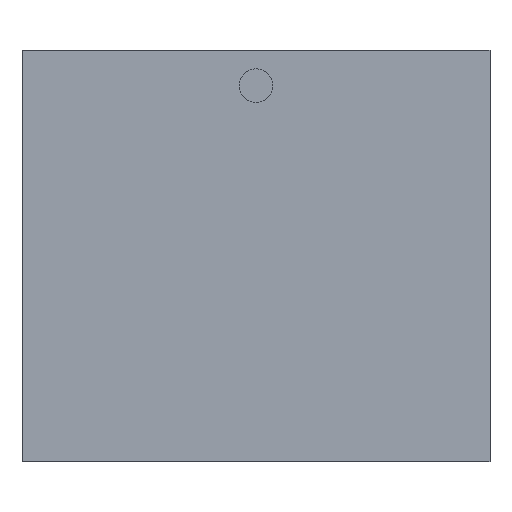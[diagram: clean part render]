
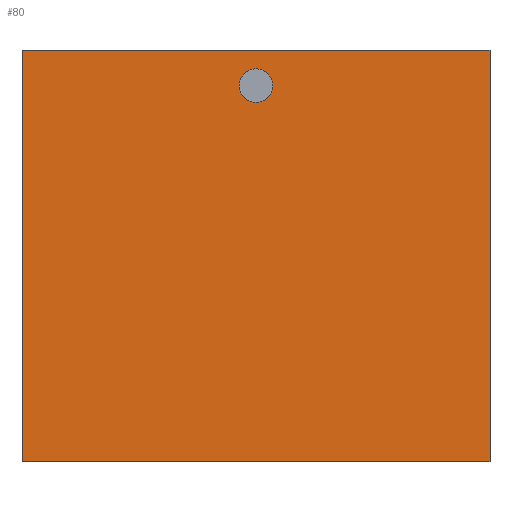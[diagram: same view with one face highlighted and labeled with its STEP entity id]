
A CAD part, front view. The second image highlights one B-rep face of the part: STEP entity #80.
In plain terms, the highlighted planar face has unit normal (0, -1, 0).
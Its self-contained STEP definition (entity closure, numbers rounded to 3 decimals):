
#28 = EDGE_LOOP ( 'NONE', ( #495, #719, #732, #230 ) ) ;
#53 = EDGE_CURVE ( 'NONE', #717, #660, #461, .T. ) ;
#74 = CARTESIAN_POINT ( 'NONE',  ( 0., 0., 44. ) ) ;
#77 = CIRCLE ( 'NONE', #229, 1.8 ) ;
#80 = ADVANCED_FACE ( 'NONE', ( #443, #268 ), #371, .F. ) ;
#87 = LINE ( 'NONE', #292, #297 ) ;
#95 = CARTESIAN_POINT ( 'NONE',  ( 50., 0., 44. ) ) ;
#112 = CARTESIAN_POINT ( 'NONE',  ( 25., 0., 40.2 ) ) ;
#136 = DIRECTION ( 'NONE',  ( 0., 0., -1. ) ) ;
#138 = CIRCLE ( 'NONE', #246, 1.8 ) ;
#143 = DIRECTION ( 'NONE',  ( 0., -1., 0. ) ) ;
#164 = CARTESIAN_POINT ( 'NONE',  ( 50., 0., 0. ) ) ;
#168 = DIRECTION ( 'NONE',  ( 0., -1., 0. ) ) ;
#173 = VERTEX_POINT ( 'NONE', #665 ) ;
#193 = EDGE_CURVE ( 'NONE', #688, #382, #742, .T. ) ;
#213 = DIRECTION ( 'NONE',  ( 0., 0., -1. ) ) ;
#229 = AXIS2_PLACEMENT_3D ( 'NONE', #491, #143, #556 ) ;
#230 = ORIENTED_EDGE ( 'NONE', *, *, #53, .T. ) ;
#246 = AXIS2_PLACEMENT_3D ( 'NONE', #112, #168, #407 ) ;
#252 = CARTESIAN_POINT ( 'NONE',  ( 0., 0., 44. ) ) ;
#253 = ORIENTED_EDGE ( 'NONE', *, *, #554, .F. ) ;
#264 = ORIENTED_EDGE ( 'NONE', *, *, #419, .F. ) ;
#268 = FACE_OUTER_BOUND ( 'NONE', #28, .T. ) ;
#292 = CARTESIAN_POINT ( 'NONE',  ( 0., 0., 0. ) ) ;
#297 = VECTOR ( 'NONE', #636, 1000. ) ;
#312 = DIRECTION ( 'NONE',  ( 0., 0., 1. ) ) ;
#340 = VECTOR ( 'NONE', #697, 1000. ) ;
#371 = PLANE ( 'NONE',  #536 ) ;
#382 = VERTEX_POINT ( 'NONE', #164 ) ;
#384 = CARTESIAN_POINT ( 'NONE',  ( 50., 0., 44. ) ) ;
#394 = EDGE_CURVE ( 'NONE', #660, #382, #87, .T. ) ;
#407 = DIRECTION ( 'NONE',  ( 0., 0., -1. ) ) ;
#419 = EDGE_CURVE ( 'NONE', #637, #173, #138, .T. ) ;
#424 = EDGE_CURVE ( 'NONE', #717, #688, #465, .T. ) ;
#442 = CARTESIAN_POINT ( 'NONE',  ( 25., 0., 42. ) ) ;
#443 = FACE_BOUND ( 'NONE', #661, .T. ) ;
#461 = LINE ( 'NONE', #74, #563 ) ;
#465 = LINE ( 'NONE', #521, #340 ) ;
#491 = CARTESIAN_POINT ( 'NONE',  ( 25., 0., 40.2 ) ) ;
#495 = ORIENTED_EDGE ( 'NONE', *, *, #394, .T. ) ;
#521 = CARTESIAN_POINT ( 'NONE',  ( 0., 0., 44. ) ) ;
#536 = AXIS2_PLACEMENT_3D ( 'NONE', #252, #670, #312 ) ;
#554 = EDGE_CURVE ( 'NONE', #173, #637, #77, .T. ) ;
#556 = DIRECTION ( 'NONE',  ( 0., 0., -1. ) ) ;
#563 = VECTOR ( 'NONE', #136, 1000. ) ;
#570 = CARTESIAN_POINT ( 'NONE',  ( 0., 0., 44. ) ) ;
#636 = DIRECTION ( 'NONE',  ( 1., 0., 0. ) ) ;
#637 = VERTEX_POINT ( 'NONE', #442 ) ;
#652 = VECTOR ( 'NONE', #213, 1000. ) ;
#660 = VERTEX_POINT ( 'NONE', #722 ) ;
#661 = EDGE_LOOP ( 'NONE', ( #253, #264 ) ) ;
#665 = CARTESIAN_POINT ( 'NONE',  ( 25., 0., 38.4 ) ) ;
#670 = DIRECTION ( 'NONE',  ( 0., 1., 0. ) ) ;
#688 = VERTEX_POINT ( 'NONE', #95 ) ;
#697 = DIRECTION ( 'NONE',  ( 1., 0., 0. ) ) ;
#717 = VERTEX_POINT ( 'NONE', #570 ) ;
#719 = ORIENTED_EDGE ( 'NONE', *, *, #193, .F. ) ;
#722 = CARTESIAN_POINT ( 'NONE',  ( 0., 0., 0. ) ) ;
#732 = ORIENTED_EDGE ( 'NONE', *, *, #424, .F. ) ;
#742 = LINE ( 'NONE', #384, #652 ) ;
